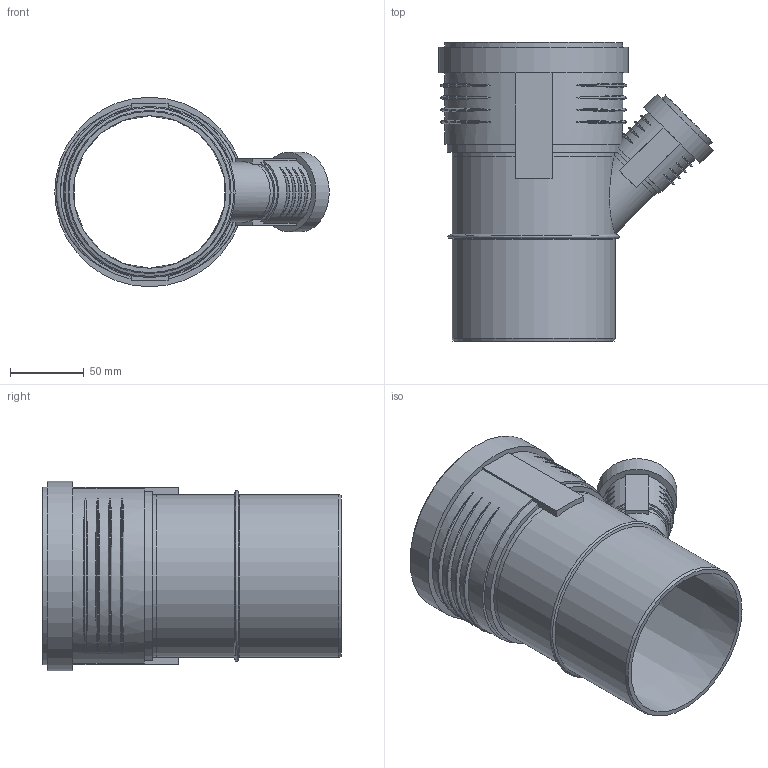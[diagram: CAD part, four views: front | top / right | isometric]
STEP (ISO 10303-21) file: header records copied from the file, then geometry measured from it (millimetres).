
FILE_DESCRIPTION(/* description */ (''),/* implementation_level */ '2;1');
FILE_NAME(/* name */ 'Z:\Geberit\Export\NewStep\390531.stp',/* time_stamp */ '2014-04-02T08:14:18+02:00',/* author */ ('ML'),/* organization */ (''),/* preprocessor_version */ 'ST-DEVELOPER v15.2',/* originating_system */ 'Autodesk Inventor 2014',/* authorisation */ '');
FILE_SCHEMA (('AUTOMOTIVE_DESIGN { 1 0 10303 214 3 1 1 }'));
Length unit declared in the file: millimetre
Products named in the file (4): 861345; 861400; 861404; 390531
Bounding box: 185.49 x 202 x 128.1 mm (x, y, z)
Volume: 302320.7 mm3; surface area: 186851.3 mm2
Topology: 3 solids, 3 shells, 124 faces, 304 edges, 212 vertices
Faces by surface type: torus 50, plane 37, cylinder 30, cone 7
Full cylindrical faces by diameter (mm): 36.15 x2, 40.15 x2, 41 x2, 45 x1, 49.7 x1, 53.7 x1, 103.2 x1, 110.2 x3, 113.3 x2, 120.3 x1, 121.1 x1, 128.1 x1
Entity records: 4991 total; most frequent: CARTESIAN_POINT 2083, ORIENTED_EDGE 534, DIRECTION 528, EDGE_CURVE 267, AXIS2_PLACEMENT_3D 228, VERTEX_POINT 203, EDGE_LOOP 186, STYLED_ITEM 124
